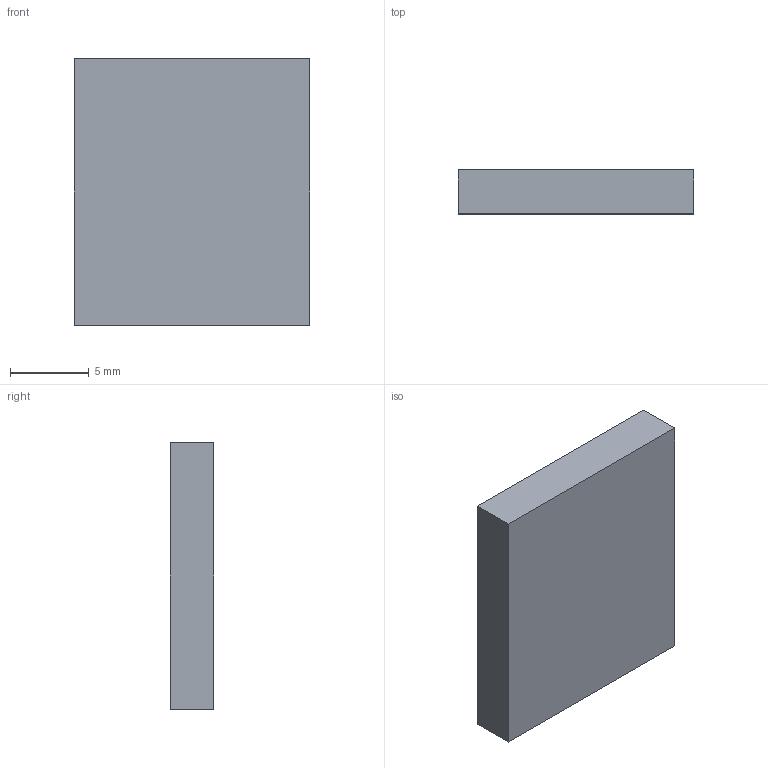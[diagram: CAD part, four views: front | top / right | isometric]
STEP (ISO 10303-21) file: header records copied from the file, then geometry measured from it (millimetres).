
FILE_DESCRIPTION(('Open CASCADE Model'),'2;1');
FILE_NAME('Open CASCADE Shape Model','2026-09-24T05:33:17',('Author'),( 'Open CASCADE'),'Open CASCADE STEP processor 7.8','Open CASCADE 7.8' ,'Unknown');
FILE_SCHEMA(('AUTOMOTIVE_DESIGN { 1 0 10303 214 1 1 1 1 }'));
Length unit declared in the file: millimetre
Products named in the file (1): Open CASCADE STEP translator 7.8 24
Bounding box: 15 x 2.8 x 17 mm (x, y, z)
Volume: 714 mm3; surface area: 689.2 mm2
Topology: 1 solids, 1 shells, 6 faces, 12 edges, 8 vertices
Faces by surface type: plane 6
Entity records: 322 total; most frequent: CARTESIAN_POINT 51, DIRECTION 50, LINE 36, VECTOR 36, ORIENTED_EDGE 24, PCURVE 24, DEFINITIONAL_REPRESENTATION 24, EDGE_CURVE 12
